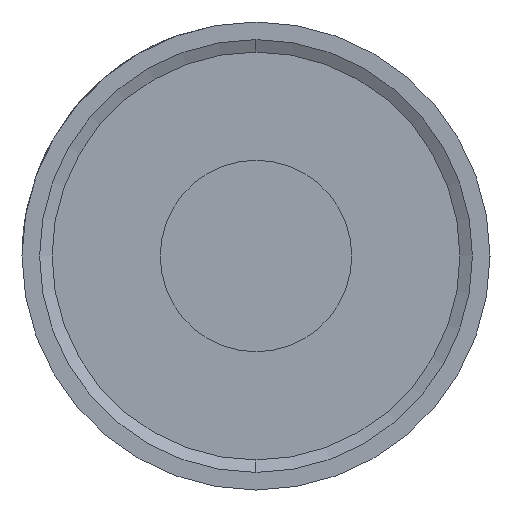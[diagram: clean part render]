
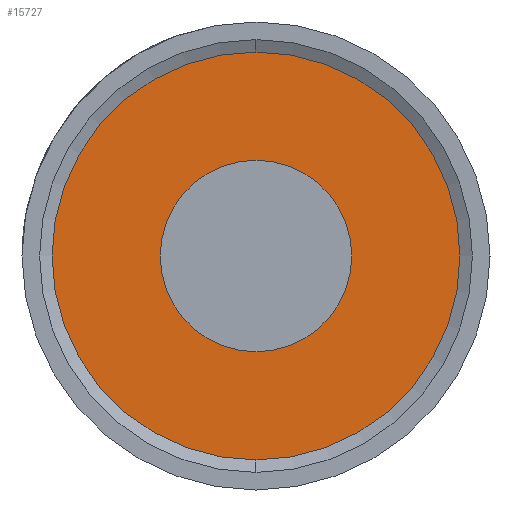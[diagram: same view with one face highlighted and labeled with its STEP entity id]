
A CAD part, left-side view. The second image highlights one B-rep face of the part: STEP entity #15727.
In plain terms, the highlighted planar face has unit normal (-1, 0, 0).
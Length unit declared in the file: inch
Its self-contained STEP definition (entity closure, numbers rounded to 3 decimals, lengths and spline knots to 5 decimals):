
#551 = VERTEX_POINT ( 'NONE', #17862 ) ;
#841 = VERTEX_POINT ( 'NONE', #11754 ) ;
#1035 = CIRCLE ( 'NONE', #11584, 0.1225 ) ;
#1516 = DIRECTION ( 'NONE',  ( -1., 0., 0. ) ) ;
#2386 = FACE_BOUND ( 'NONE', #7744, .T. ) ;
#2664 = AXIS2_PLACEMENT_3D ( 'NONE', #16242, #15005, #12035 ) ;
#2740 = CARTESIAN_POINT ( 'NONE',  ( 0., 0., 0. ) ) ;
#3775 = AXIS2_PLACEMENT_3D ( 'NONE', #9743, #13917, #6825 ) ;
#4167 = VERTEX_POINT ( 'NONE', #4846 ) ;
#4846 = CARTESIAN_POINT ( 'NONE',  ( 0., 0., -0.1225 ) ) ;
#5302 = CIRCLE ( 'NONE', #15549, 0.1225 ) ;
#5611 = FACE_OUTER_BOUND ( 'NONE', #14453, .T. ) ;
#5896 = DIRECTION ( 'NONE',  ( -1., 0., 0. ) ) ;
#6825 = DIRECTION ( 'NONE',  ( 0., 0., -1. ) ) ;
#7306 = ORIENTED_EDGE ( 'NONE', *, *, #16685, .T. ) ;
#7744 = EDGE_LOOP ( 'NONE', ( #15842, #7844 ) ) ;
#7844 = ORIENTED_EDGE ( 'NONE', *, *, #15518, .F. ) ;
#8139 = PLANE ( 'NONE',  #3775 ) ;
#8289 = CIRCLE ( 'NONE', #14337, 0.0575 ) ;
#8360 = CARTESIAN_POINT ( 'NONE',  ( 0., 0., -0.0575 ) ) ;
#8449 = ORIENTED_EDGE ( 'NONE', *, *, #9894, .T. ) ;
#8527 = VERTEX_POINT ( 'NONE', #8360 ) ;
#8591 = CARTESIAN_POINT ( 'NONE',  ( 0., 0., 0. ) ) ;
#9743 = CARTESIAN_POINT ( 'NONE',  ( 0., 0., 0. ) ) ;
#9894 = EDGE_CURVE ( 'NONE', #4167, #841, #1035, .T. ) ;
#10033 = DIRECTION ( 'NONE',  ( 0., 0., 1. ) ) ;
#10517 = CIRCLE ( 'NONE', #2664, 0.0575 ) ;
#11546 = CARTESIAN_POINT ( 'NONE',  ( 0., 0., 0. ) ) ;
#11584 = AXIS2_PLACEMENT_3D ( 'NONE', #2740, #13138, #17055 ) ;
#11754 = CARTESIAN_POINT ( 'NONE',  ( 0., 0., 0.1225 ) ) ;
#12035 = DIRECTION ( 'NONE',  ( 0., 0., 1. ) ) ;
#13138 = DIRECTION ( 'NONE',  ( -1., 0., 0. ) ) ;
#13442 = EDGE_CURVE ( 'NONE', #551, #8527, #10517, .T. ) ;
#13917 = DIRECTION ( 'NONE',  ( 1., 0., 0. ) ) ;
#14337 = AXIS2_PLACEMENT_3D ( 'NONE', #11546, #5896, #10033 ) ;
#14453 = EDGE_LOOP ( 'NONE', ( #7306, #8449 ) ) ;
#15005 = DIRECTION ( 'NONE',  ( -1., 0., 0. ) ) ;
#15518 = EDGE_CURVE ( 'NONE', #8527, #551, #8289, .T. ) ;
#15549 = AXIS2_PLACEMENT_3D ( 'NONE', #8591, #1516, #16005 ) ;
#15727 = ADVANCED_FACE ( 'NONE', ( #2386, #5611 ), #8139, .F. ) ;
#15842 = ORIENTED_EDGE ( 'NONE', *, *, #13442, .F. ) ;
#16005 = DIRECTION ( 'NONE',  ( 0., 0., 1. ) ) ;
#16242 = CARTESIAN_POINT ( 'NONE',  ( 0., 0., 0. ) ) ;
#16685 = EDGE_CURVE ( 'NONE', #841, #4167, #5302, .T. ) ;
#17055 = DIRECTION ( 'NONE',  ( 0., 0., 1. ) ) ;
#17862 = CARTESIAN_POINT ( 'NONE',  ( 0., 0., 0.0575 ) ) ;
